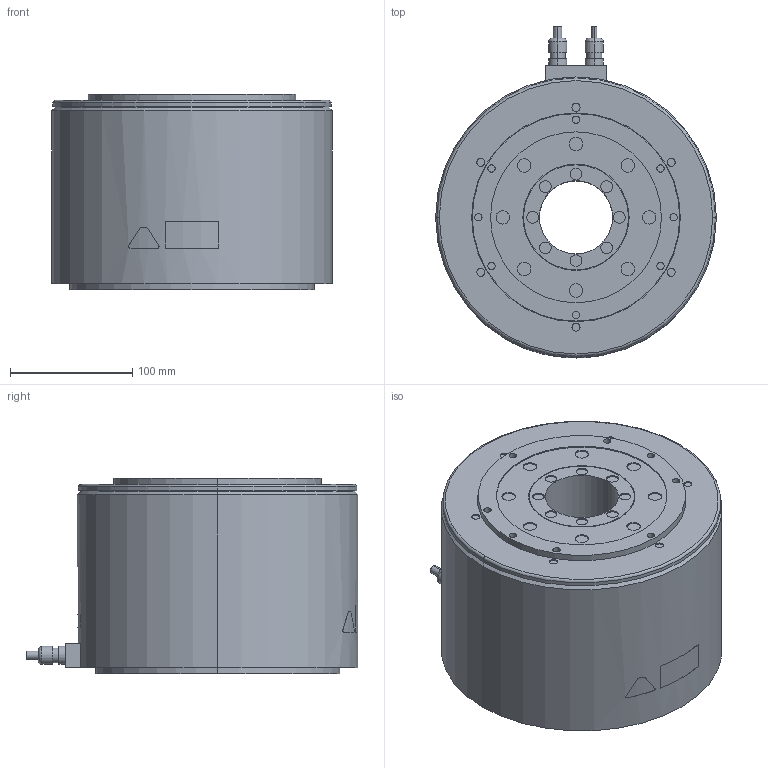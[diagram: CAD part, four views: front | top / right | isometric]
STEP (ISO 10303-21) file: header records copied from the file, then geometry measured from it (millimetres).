
FILE_DESCRIPTION (( 'STEP AP203' ), '1' );
FILE_NAME ('sgm7e_25d_a4_.STEP', '2016-06-02T07:04:11', ( '' ), ( '' ), 'SwSTEP 2.0', 'SolidWorks 2010', '' );
FILE_SCHEMA (( 'CONFIG_CONTROL_DESIGN' ));
Length unit declared in the file: millimetre
Products named in the file (1): sgm7e_25d_a4_
Bounding box: 230 x 272 x 160 mm (x, y, z)
Volume: 6038265.2 mm3; surface area: 232210.7 mm2
Topology: 1 solids, 1 shells, 234 faces, 480 edges, 316 vertices
Faces by surface type: cylinder 138, plane 81, torus 6, bspline 5, cone 4
Entity records: 6763 total; most frequent: CARTESIAN_POINT 1464, DIRECTION 1220, ORIENTED_EDGE 960, AXIS2_PLACEMENT_3D 526, EDGE_CURVE 480, VERTEX_POINT 316, EDGE_LOOP 304, CIRCLE 296
